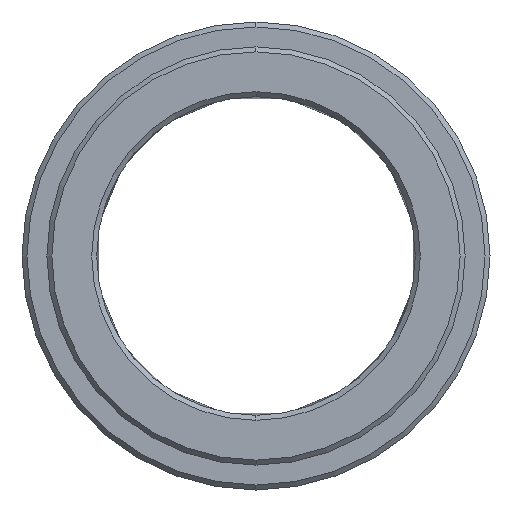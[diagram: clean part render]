
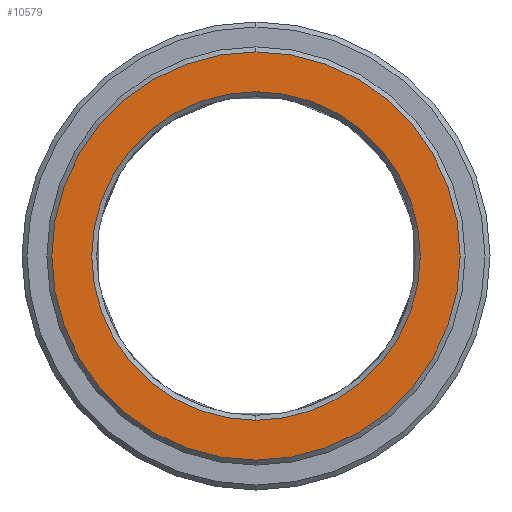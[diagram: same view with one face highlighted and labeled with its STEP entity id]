
A CAD part, left-side view. The second image highlights one B-rep face of the part: STEP entity #10579.
In plain terms, the highlighted planar face has unit normal (-1, 0, 0).
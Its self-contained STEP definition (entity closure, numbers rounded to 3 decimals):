
#7058=CARTESIAN_POINT('',(-8.,0.,0.));
#7059=DIRECTION('',(1.,0.,0.));
#7060=DIRECTION('',(0.,0.,1.));
#7061=AXIS2_PLACEMENT_3D('',#7058,#7059,#7060);
#7063=CARTESIAN_POINT('',(-8.,0.,
0.));
#7064=DIRECTION('',(1.,0.,0.));
#7065=DIRECTION('',(0.,0.,-1.));
#7066=AXIS2_PLACEMENT_3D('',#7063,#7064,#7065);
#7068=CARTESIAN_POINT('',(-8.,0.,
0.));
#7069=DIRECTION('',(1.,0.,0.));
#7070=DIRECTION('',(0.,0.,-1.));
#7071=AXIS2_PLACEMENT_3D('',#7068,#7069,#7070);
#7073=CARTESIAN_POINT('',(-8.,0.,
0.));
#7074=DIRECTION('',(1.,0.,0.));
#7075=DIRECTION('',(0.,0.,1.));
#7076=AXIS2_PLACEMENT_3D('',#7073,#7074,#7075);
#7524=CARTESIAN_POINT('',(-8.,0.,-16.5));
#7525=CARTESIAN_POINT('',(-8.,0.,16.5));
#7526=VERTEX_POINT('',#7524);
#7527=VERTEX_POINT('',#7525);
#7532=CARTESIAN_POINT('',(-8.,0.,20.5));
#7533=CARTESIAN_POINT('',(-8.,0.,
-20.5));
#7534=VERTEX_POINT('',#7532);
#7535=VERTEX_POINT('',#7533);
#10564=CARTESIAN_POINT('',(-8.,0.,0.));
#10565=DIRECTION('',(1.,0.,0.));
#10566=DIRECTION('',(0.,0.,1.));
#10567=AXIS2_PLACEMENT_3D('',#10564,#10565,#10566);
#10568=PLANE('',#10567);
#10569=ORIENTED_EDGE('',*,*,#10531,.T.);
#10570=ORIENTED_EDGE('',*,*,#10546,.T.);
#10571=EDGE_LOOP('',(#10569,#10570));
#10572=FACE_OUTER_BOUND('',#10571,.F.);
#10574=ORIENTED_EDGE('',*,*,#10573,.F.);
#10576=ORIENTED_EDGE('',*,*,#10575,.F.);
#10577=EDGE_LOOP('',(#10574,#10576));
#10578=FACE_BOUND('',#10577,.F.);
#10579=ADVANCED_FACE('',(#10572,#10578),#10568,.F.);
#7062=CIRCLE('',#7061,20.5);
#7067=CIRCLE('',#7066,20.5);
#7072=CIRCLE('',#7071,16.5);
#7077=CIRCLE('',#7076,16.5);
#10531=EDGE_CURVE('',#7534,#7535,#7062,.T.);
#10546=EDGE_CURVE('',#7535,#7534,#7067,.T.);
#10573=EDGE_CURVE('',#7526,#7527,#7072,.T.);
#10575=EDGE_CURVE('',#7527,#7526,#7077,.T.);
